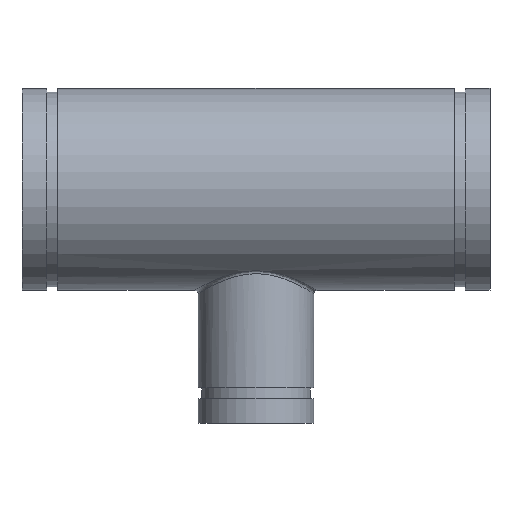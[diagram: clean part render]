
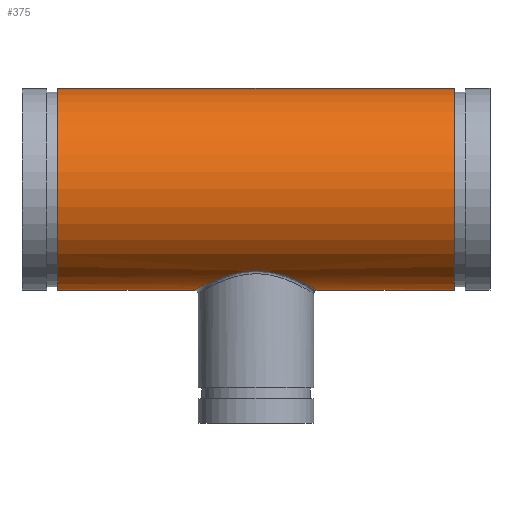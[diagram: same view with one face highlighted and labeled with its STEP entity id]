
A CAD part, top view. The second image highlights one B-rep face of the part: STEP entity #375.
In plain terms, the highlighted cylindrical face has radius 87.63 mm (diameter 175.26 mm), a full revolution.
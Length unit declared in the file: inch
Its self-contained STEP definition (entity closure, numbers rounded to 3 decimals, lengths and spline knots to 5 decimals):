
#54=FACE_BOUND('',#119,.T.);
#65=LINE('',#798,#76);
#76=VECTOR('',#483,3.45);
#87=CYLINDRICAL_SURFACE('',#415,3.45);
#98=FACE_OUTER_BOUND('',#118,.T.);
#118=EDGE_LOOP('',(#266,#267,#268,#269));
#119=EDGE_LOOP('',(#270));
#150=B_SPLINE_CURVE_WITH_KNOTS('',3,(#769,#770,#771,#772,#773,#774,#775,
#776,#777,#778,#779,#780,#781,#782,#783,#784,#785,#786,#787,#788,#789,#790,
#791,#792,#793),.UNSPECIFIED.,.T.,.F.,(4,1,1,1,1,1,1,1,1,1,1,1,1,1,1,1,
1,1,1,1,1,1,4),(-31.17038,-30.05715,-28.94392,-26.71746,
-25.23316,-23.74886,-22.26455,-20.78025,
-19.29595,-17.81164,-16.32734,-15.58519,
-14.84304,-13.35873,-11.87443,-10.39013,
-8.90582,-7.42152,-5.93721,-4.45291,
-2.22646,-1.11323,0.),.UNSPECIFIED.);
#154=CIRCLE('',#416,3.45);
#155=CIRCLE('',#417,3.45);
#182=VERTEX_POINT('',#736);
#185=VERTEX_POINT('',#795);
#186=VERTEX_POINT('',#797);
#219=EDGE_CURVE('',#182,#182,#150,.T.);
#220=EDGE_CURVE('',#185,#185,#154,.T.);
#221=EDGE_CURVE('',#185,#186,#65,.T.);
#222=EDGE_CURVE('',#186,#186,#155,.T.);
#266=ORIENTED_EDGE('',*,*,#220,.T.);
#267=ORIENTED_EDGE('',*,*,#221,.T.);
#268=ORIENTED_EDGE('',*,*,#222,.T.);
#269=ORIENTED_EDGE('',*,*,#221,.F.);
#270=ORIENTED_EDGE('',*,*,#219,.F.);
#375=ADVANCED_FACE('',(#98,#54),#87,.T.);
#415=AXIS2_PLACEMENT_3D('',#794,#479,#480);
#416=AXIS2_PLACEMENT_3D('',#796,#481,#482);
#417=AXIS2_PLACEMENT_3D('',#799,#484,#485);
#479=DIRECTION('center_axis',(-1.,0.,0.));
#480=DIRECTION('ref_axis',(0.,-1.,0.));
#481=DIRECTION('center_axis',(1.,0.,0.));
#482=DIRECTION('ref_axis',(0.,-1.,0.));
#483=DIRECTION('',(1.,0.,0.));
#484=DIRECTION('center_axis',(-1.,0.,0.));
#485=DIRECTION('ref_axis',(0.,-1.,0.));
#736=CARTESIAN_POINT('',(0.,-2.78853,-2.0314));
#769=CARTESIAN_POINT('Ctrl Pts',(0.,-2.78853,
-2.0314));
#770=CARTESIAN_POINT('Ctrl Pts',(0.16155,-2.78853,-2.0314));
#771=CARTESIAN_POINT('Ctrl Pts',(0.48446,-2.81539,-1.99514));
#772=CARTESIAN_POINT('Ctrl Pts',(1.08148,-2.95733,-1.78791));
#773=CARTESIAN_POINT('Ctrl Pts',(1.60901,-3.18396,-1.37995));
#774=CARTESIAN_POINT('Ctrl Pts',(1.98261,-3.38009,-0.76968));
#775=CARTESIAN_POINT('Ctrl Pts',(2.13236,-3.46582,-0.1592));
#776=CARTESIAN_POINT('Ctrl Pts',(2.08132,-3.43614,0.47205));
#777=CARTESIAN_POINT('Ctrl Pts',(1.84128,-3.30325,1.04472));
#778=CARTESIAN_POINT('Ctrl Pts',(1.45042,-3.11229,1.51142));
#779=CARTESIAN_POINT('Ctrl Pts',(0.93978,-2.917,1.85096));
#780=CARTESIAN_POINT('Ctrl Pts',(0.43101,-2.80604,2.00739));
#781=CARTESIAN_POINT('Ctrl Pts',(-0.00002,-2.78272,
2.0394));
#782=CARTESIAN_POINT('Ctrl Pts',(-0.43099,-2.80602,2.0074));
#783=CARTESIAN_POINT('Ctrl Pts',(-0.93974,-2.91702,1.85097));
#784=CARTESIAN_POINT('Ctrl Pts',(-1.45041,-3.11227,1.51142));
#785=CARTESIAN_POINT('Ctrl Pts',(-1.84129,-3.30328,1.04472));
#786=CARTESIAN_POINT('Ctrl Pts',(-2.08129,-3.43613,0.4721));
#787=CARTESIAN_POINT('Ctrl Pts',(-2.13238,-3.46583,-0.15919));
#788=CARTESIAN_POINT('Ctrl Pts',(-1.98261,-3.38009,-0.76967));
#789=CARTESIAN_POINT('Ctrl Pts',(-1.60903,-3.18396,-1.37994));
#790=CARTESIAN_POINT('Ctrl Pts',(-1.08147,-2.95733,-1.78791));
#791=CARTESIAN_POINT('Ctrl Pts',(-0.48446,-2.81539,-1.99514));
#792=CARTESIAN_POINT('Ctrl Pts',(-0.16155,-2.78853,-2.0314));
#793=CARTESIAN_POINT('Ctrl Pts',(0.,-2.78853,
-2.0314));
#794=CARTESIAN_POINT('Origin',(8.,0.,0.));
#795=CARTESIAN_POINT('',(-6.785,3.45,0.));
#796=CARTESIAN_POINT('Origin',(-6.785,0.,0.));
#797=CARTESIAN_POINT('',(6.785,3.45,0.));
#798=CARTESIAN_POINT('',(8.,3.45,0.));
#799=CARTESIAN_POINT('Origin',(6.785,0.,0.));
